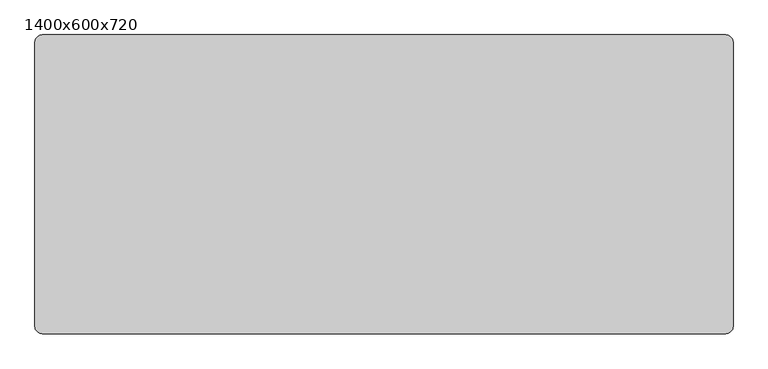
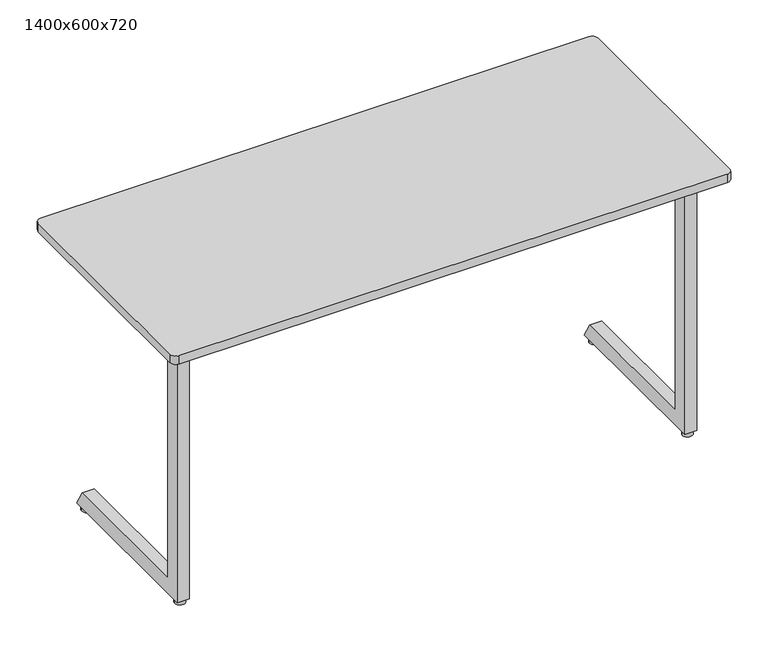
"""IFC4 building model written with IfcOpenShell, lengths in millimetres: furniture geometry, Trivia Light : 1400x600x720."""

from ifc_helpers import new_model, si_unit, point, frame, frame_2d, origin, origin_with_axes, place, context, project, spatial, polyline, circle_curve, trimmed, segment, composite_curve, outline, extrude, source, transform, mapped, element, save


def furniture_1400x600x720_74c10038(model_context):
    return source(origin(), model_context, "Body", "SweptSolid", [
        extrude(outline(polyline([(484.5100173, 698.0), (469.9996059, 666.4981092), (104.0, 666.4977978), (104.0, 698.0), (484.5100173, 698.0)])), frame((-564.7535601, 0.0, 0.0), z_axis=(1.0, 0.0, 0.0), x_axis=(0.0, 1.0, 0.0)), (0.0, 0.0, 1.0), 30.0),
        extrude(outline(polyline([(693.7997437, -567.7502136), (670.730957, -567.7502136), (670.730957, -599.8065042), (675.0394353, -611.6439509), (672.2203574, -612.6700113), (667.730957, -600.3354852), (667.730957, -564.7502136), (693.7997437, -564.7502136), (693.7997437, -567.7502136)])), frame((0.0, 265.0, 0.0), z_axis=(0.0, 1.0, 0.0), x_axis=(0.0, 0.0, 1.0)), (0.0, 0.0, 1.0), 30.0),
        extrude(outline(polyline([(693.7997437, 567.7535601), (693.7997437, 564.7535601), (667.730957, 564.7535601), (667.730957, 600.3388316), (672.2203574, 612.6733577), (675.0394353, 611.6472973), (670.730957, 599.8098507), (670.730957, 567.7535601), (693.7997437, 567.7535601)])), frame((0.0, 265.0, 0.0), z_axis=(0.0, 1.0, 0.0), x_axis=(0.0, 0.0, 1.0)), (0.0, 0.0, 1.0), 30.0),
        extrude(outline(composite_curve([segment(trimmed(circle_curve(frame_2d((-635.0, 85.0)), 13.0), [point((-648.0, 85.0))], [point((-622.0, 85.0))], False, "CARTESIAN"), True, "CONTINUOUS"), segment(trimmed(circle_curve(frame_2d((-635.0, 85.0)), 13.0), [point((-622.0, 85.0))], [point((-648.0, 85.0))], False, "CARTESIAN"), True, "CONTINUOUS")], self_intersect=False)), origin_with_axes(), (0.0, 0.0, 1.0), 13.0905762),
        extrude(outline(composite_curve([segment(trimmed(circle_curve(frame_2d((635.0, 85.0)), 13.0), [point((622.0, 85.0))], [point((648.0, 85.0))], False, "CARTESIAN"), True, "CONTINUOUS"), segment(trimmed(circle_curve(frame_2d((635.0, 85.0)), 13.0), [point((648.0, 85.0))], [point((622.0, 85.0))], False, "CARTESIAN"), True, "CONTINUOUS")], self_intersect=False)), origin_with_axes(), (0.0, 0.0, 1.0), 13.0905762),
        extrude(outline(composite_curve([segment(trimmed(circle_curve(frame_2d((635.0, 487.5)), 13.0), [point((622.0, 487.5))], [point((648.0, 487.5))], False, "CARTESIAN"), True, "CONTINUOUS"), segment(trimmed(circle_curve(frame_2d((635.0, 487.5)), 13.0), [point((648.0, 487.5))], [point((622.0, 487.5))], False, "CARTESIAN"), True, "CONTINUOUS")], self_intersect=False)), origin_with_axes(), (0.0, 0.0, 1.0), 13.0905762),
        extrude(outline(composite_curve([segment(trimmed(circle_curve(frame_2d((-635.0, 487.5)), 13.0), [point((-648.0, 487.5))], [point((-622.0, 487.5))], False, "CARTESIAN"), True, "CONTINUOUS"), segment(trimmed(circle_curve(frame_2d((-635.0, 487.5)), 13.0), [point((-622.0, 487.5))], [point((-648.0, 487.5))], False, "CARTESIAN"), True, "CONTINUOUS")], self_intersect=False)), origin_with_axes(), (0.0, 0.0, 1.0), 13.0905762),
        extrude(outline(polyline([(484.5100173, 698.0), (469.9996059, 666.4981092), (104.0, 666.4977978), (104.0, 698.0), (484.5100173, 698.0)])), frame((534.7535601, 0.0, 0.0), z_axis=(1.0, 0.0, 0.0), x_axis=(0.0, 1.0, 0.0)), (0.0, 0.0, 1.0), 30.0),
        extrude(outline(composite_curve([segment(trimmed(circle_curve(frame_2d((685.0, 585.0)), 15.0), [point((685.0, 600.0))], [point((700.0, 585.0))], False, "CARTESIAN"), True, "CONTINUOUS"), segment(polyline([(700.0, 585.0), (700.0, 15.0)]), True, "CONTINUOUS"), segment(trimmed(circle_curve(frame_2d((685.0, 15.0)), 15.0), [point((700.0, 15.0))], [point((685.0, 0.0))], False, "CARTESIAN"), True, "CONTINUOUS"), segment(polyline([(685.0, 0.0), (-685.0, 0.0)]), True, "CONTINUOUS"), segment(trimmed(circle_curve(frame_2d((-685.0, 15.0)), 15.0), [point((-685.0, 0.0))], [point((-700.0, 15.0))], False, "CARTESIAN"), True, "CONTINUOUS"), segment(polyline([(-700.0, 15.0), (-700.0, 585.0)]), True, "CONTINUOUS"), segment(trimmed(circle_curve(frame_2d((-685.0, 585.0)), 15.0), [point((-700.0, 585.0))], [point((-685.0, 600.0))], False, "CARTESIAN"), True, "CONTINUOUS"), segment(polyline([(-685.0, 600.0), (685.0, 600.0)]), True, "CONTINUOUS")], self_intersect=False)), frame((0.0, 0.0, 698.0), z_axis=(0.0, 0.0, 1.0), x_axis=(1.0, 0.0, 0.0)), (0.0, 0.0, 1.0), 22.0),
        extrude(outline(polyline([(619.7534307, 104.0), (619.7534307, 74.0), (-619.7534307, 74.0), (-619.7534307, 104.0), (619.7534307, 104.0)])), frame((0.0, 0.0, 656.0), z_axis=(0.0, 0.0, 1.0), x_axis=(1.0, 0.0, 0.0)), (0.0, 0.0, 1.0), 42.0),
        extrude(outline(polyline([(112.0, 51.5905762), (482.1448423, 51.5905762), (504.8944033, 11.5905762), (70.0, 11.5905762), (70.0, 698.0), (112.0, 698.0), (112.0, 51.5905762)])), frame((-649.7535601, 0.0, 0.0), z_axis=(1.0, 0.0, 0.0), x_axis=(0.0, 1.0, 0.0)), (0.0, 0.0, 1.0), 30.0001294),
        extrude(outline(polyline([(112.0, 51.5905762), (482.1448423, 51.5905762), (504.8944033, 11.5905762), (70.0, 11.5905762), (70.0, 698.0), (112.0, 698.0), (112.0, 51.5905762)])), frame((619.7534307, 0.0, 0.0), z_axis=(1.0, 0.0, 0.0), x_axis=(0.0, 1.0, 0.0)), (0.0, 0.0, 1.0), 30.0001294),
    ])


if __name__ == "__main__":
    model = new_model("IFC4")
    model_context = context("Model", 3, world=origin())
    ifc_project = project(units=[si_unit("LENGTHUNIT", "METRE", prefix="MILLI")], contexts=[model_context])
    site = spatial("IfcSite", under=ifc_project)
    building = spatial("IfcBuilding", under=site)
    placement = place(None, origin())
    furniture_1400x600x720_shape = furniture_1400x600x720_74c10038(model_context)
    element("IfcFurniture", 1, ObjectType="Trivia Light : 1400x600x720", at=placement, inside=building, context=model_context, shape_type="MappedRepresentation", body=[
        mapped(furniture_1400x600x720_shape, transform((0.0, 0.0, 0.0), x_axis=(1.0, 0.0, 0.0), y_axis=(0.0, 1.0, 0.0), z_axis=(0.0, 0.0, 1.0))),
    ])
    save(model, "model.ifc")
